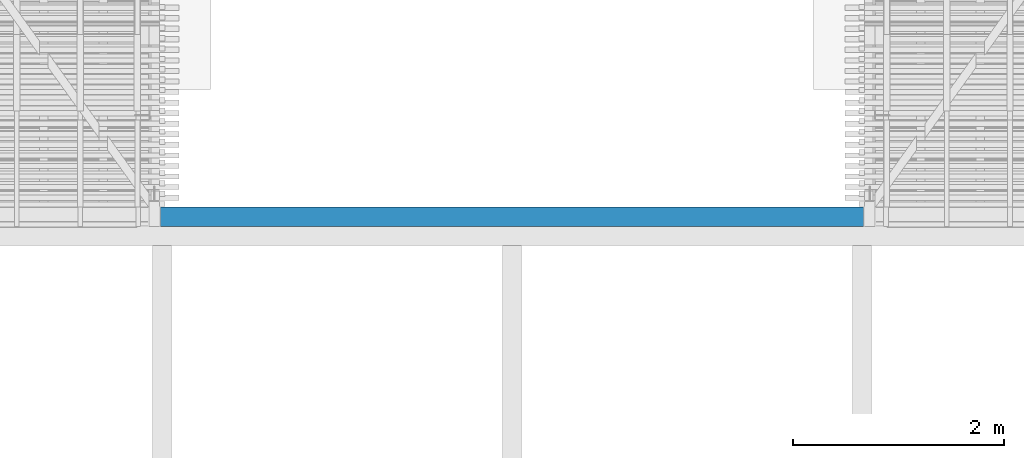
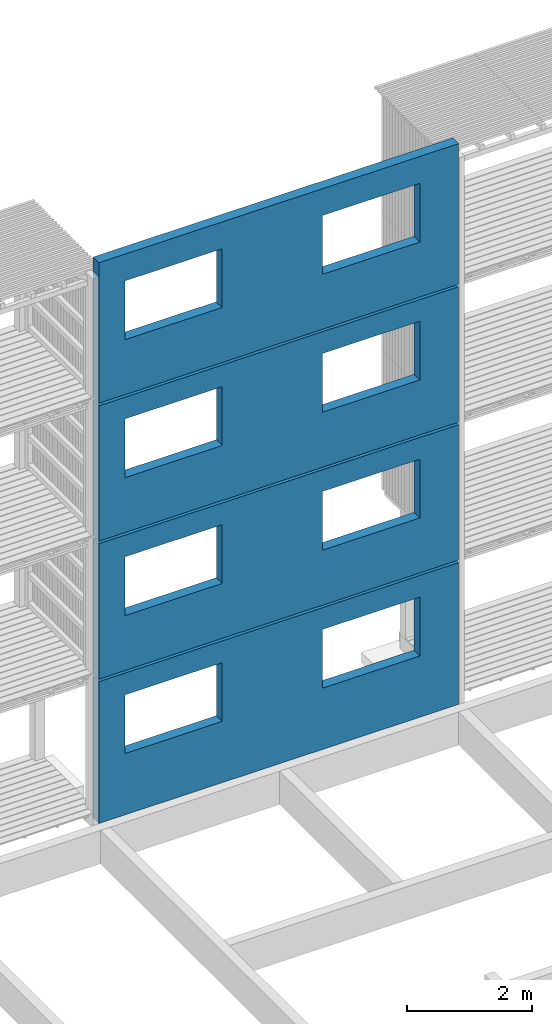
# One storey, part 182 of 182: 4 walls, 8 openings.
"""IFC2X3 building model written with IfcOpenShell, lengths in metres."""

from ifc_helpers import new_model, si_unit, frame, origin, place, context, project, spatial, faceted_brep, element, save


model = new_model("IFC2X3")

# Units and contexts
model_context = context("Model", 3, precision=1e-06, world=origin())
ifc_project = project(units=[si_unit("LENGTHUNIT", "METRE"), si_unit("PLANEANGLEUNIT", "RADIAN")], contexts=[model_context])

# Site, building, storey
site = spatial("IfcSite", under=ifc_project, CompositionType="ELEMENT")
building = spatial("IfcBuilding", under=site, CompositionType="ELEMENT")
storey = spatial("IfcBuildingStorey", under=building, Name="vs", CompositionType="ELEMENT", Elevation=-0.85)

# Wall, openings
placement = place(None, origin())
wall_1_placement = place(placement, frame((53.01459868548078, 5.057077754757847, -0.2), z_axis=(0.0, 0.0, 1.0), x_axis=(-1.0, 0.0, 0.0)))
wall_1 = element("IfcWall", 1, at=wall_1_placement, inside=storey, context=model_context, shape_type="Brep", body=[
    faceted_brep([(0.0, 0.0, 2.775), (0.0, 0.187, 2.775), (0.0, 0.187, 0.0), (0.0, 0.0, 0.0), (0.0, 0.187, 2.775), (6.659598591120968, 0.187, 2.775), (6.659598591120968, 0.187, 0.0), (0.0, 0.187, 0.0), (6.659598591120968, 0.187, 2.775), (6.659598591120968, 0.0, 2.775), (6.659598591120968, 0.0, 0.0), (6.659598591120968, 0.187, 0.0), (6.659598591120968, 0.0, 2.775), (0.0, 0.0, 2.775), (0.0, 0.0, 0.0), (6.659598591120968, 0.0, 0.0), (0.0, 0.0, 2.775), (6.659598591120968, 0.0, 2.775), (6.659598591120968, 0.187, 2.775), (0.0, 0.187, 2.775), (0.0, 0.0, 0.0), (0.0, 0.187, 0.0), (6.659598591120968, 0.187, 0.0), (6.659598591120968, 0.0, 0.0)], [[[0, 1, 2, 3]], [[4, 5, 6, 7]], [[8, 9, 10, 11]], [[12, 13, 14, 15]], [[16, 17, 18, 19]], [[20, 21, 22, 23]]]),
])
opening_1_placement = place(placement, frame((48.634598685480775, 5.057077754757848, 1.0), z_axis=(0.0, 0.0, 1.0), x_axis=(-1.0, 0.0, 0.0)))
element("IfcOpeningElement", 2, at=opening_1_placement, cuts=wall_1, Name="Opening", context=model_context, shape_type="Brep", body=[
    faceted_brep([(0.0, 0.186999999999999, 0.0), (1.8, 0.186999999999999, 0.0), (1.8, 0.0, 0.0), (0.0, 0.0, 0.0), (1.8, 0.0, 1.15), (1.8, 0.186999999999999, 1.15), (0.0, 0.186999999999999, 1.15), (0.0, 0.0, 1.15), (0.0, 0.186999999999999, 0.0), (0.0, 0.0, 0.0), (0.0, 0.0, 1.15), (0.0, 0.186999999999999, 1.15), (1.8, 0.186999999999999, 0.0), (0.0, 0.186999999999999, 0.0), (0.0, 0.186999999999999, 1.15), (1.8, 0.186999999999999, 1.15), (1.8, 0.0, 0.0), (1.8, 0.186999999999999, 0.0), (1.8, 0.186999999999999, 1.15), (1.8, 0.0, 1.15), (0.0, 0.0, 0.0), (1.8, 0.0, 0.0), (1.8, 0.0, 1.15), (0.0, 0.0, 1.15)], [[[0, 1, 2, 3]], [[4, 5, 6, 7]], [[8, 9, 10, 11]], [[12, 13, 14, 15]], [[16, 17, 18, 19]], [[20, 21, 22, 23]]]),
])
opening_2_placement = place(placement, frame((52.29459868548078, 5.057077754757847, 1.0), z_axis=(0.0, 0.0, 1.0), x_axis=(-1.0, 0.0, 0.0)))
element("IfcOpeningElement", 3, at=opening_2_placement, cuts=wall_1, Name="Opening", context=model_context, shape_type="Brep", body=[
    faceted_brep([(0.0, 0.187, 0.0), (1.8, 0.187, 0.0), (1.8, 0.0, 0.0), (0.0, 0.0, 0.0), (1.8, 0.0, 1.15), (1.8, 0.187, 1.15), (0.0, 0.187, 1.15), (0.0, 0.0, 1.15), (0.0, 0.187, 0.0), (0.0, 0.0, 0.0), (0.0, 0.0, 1.15), (0.0, 0.187, 1.15), (1.8, 0.187, 0.0), (0.0, 0.187, 0.0), (0.0, 0.187, 1.15), (1.8, 0.187, 1.15), (1.8, 0.0, 0.0), (1.8, 0.187, 0.0), (1.8, 0.187, 1.15), (1.8, 0.0, 1.15), (0.0, 0.0, 0.0), (1.8, 0.0, 0.0), (1.8, 0.0, 1.15), (0.0, 0.0, 1.15)], [[[0, 1, 2, 3]], [[4, 5, 6, 7]], [[8, 9, 10, 11]], [[12, 13, 14, 15]], [[16, 17, 18, 19]], [[20, 21, 22, 23]]]),
])

wall_2_placement = place(placement, frame((53.01459868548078, 5.057077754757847, 2.625), z_axis=(0.0, 0.0, 1.0), x_axis=(-1.0, 0.0, 0.0)))
wall_2 = element("IfcWall", 4, at=wall_2_placement, inside=storey, context=model_context, shape_type="Brep", body=[
    faceted_brep([(0.0, 0.0, 2.65), (0.0, 0.187, 2.65), (0.0, 0.187, 0.0), (0.0, 0.0, 0.0), (0.0, 0.187, 2.65), (6.659598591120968, 0.187, 2.65), (6.659598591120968, 0.187, 0.0), (0.0, 0.187, 0.0), (6.659598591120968, 0.187, 2.65), (6.659598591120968, 0.0, 2.65), (6.659598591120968, 0.0, 0.0), (6.659598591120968, 0.187, 0.0), (6.659598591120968, 0.0, 2.65), (0.0, 0.0, 2.65), (0.0, 0.0, 0.0), (6.659598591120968, 0.0, 0.0), (0.0, 0.0, 2.65), (6.659598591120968, 0.0, 2.65), (6.659598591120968, 0.187, 2.65), (0.0, 0.187, 2.65), (0.0, 0.0, 0.0), (0.0, 0.187, 0.0), (6.659598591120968, 0.187, 0.0), (6.659598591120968, 0.0, 0.0)], [[[0, 1, 2, 3]], [[4, 5, 6, 7]], [[8, 9, 10, 11]], [[12, 13, 14, 15]], [[16, 17, 18, 19]], [[20, 21, 22, 23]]]),
])
opening_3_placement = place(placement, frame((52.29459868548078, 5.057077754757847, 3.7), z_axis=(0.0, 0.0, 1.0), x_axis=(-1.0, 0.0, 0.0)))
element("IfcOpeningElement", 5, at=opening_3_placement, cuts=wall_2, Name="Opening", context=model_context, shape_type="Brep", body=[
    faceted_brep([(0.0, 0.187, 0.0), (1.8, 0.187, 0.0), (1.8, 0.0, 0.0), (0.0, 0.0, 0.0), (1.8, 0.0, 1.15), (1.8, 0.187, 1.15), (0.0, 0.187, 1.15), (0.0, 0.0, 1.15), (0.0, 0.187, 0.0), (0.0, 0.0, 0.0), (0.0, 0.0, 1.15), (0.0, 0.187, 1.15), (1.8, 0.187, 0.0), (0.0, 0.187, 0.0), (0.0, 0.187, 1.15), (1.8, 0.187, 1.15), (1.8, 0.0, 0.0), (1.8, 0.187, 0.0), (1.8, 0.187, 1.15), (1.8, 0.0, 1.15), (0.0, 0.0, 0.0), (1.8, 0.0, 0.0), (1.8, 0.0, 1.15), (0.0, 0.0, 1.15)], [[[0, 1, 2, 3]], [[4, 5, 6, 7]], [[8, 9, 10, 11]], [[12, 13, 14, 15]], [[16, 17, 18, 19]], [[20, 21, 22, 23]]]),
])
opening_4_placement = place(placement, frame((48.634598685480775, 5.057077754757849, 3.7), z_axis=(0.0, 0.0, 1.0), x_axis=(-1.0, 0.0, 0.0)))
element("IfcOpeningElement", 6, at=opening_4_placement, cuts=wall_2, Name="Opening", context=model_context, shape_type="Brep", body=[
    faceted_brep([(0.0, 0.186999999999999, 0.0), (1.8, 0.186999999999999, 0.0), (1.8, 0.0, 0.0), (0.0, 0.0, 0.0), (1.8, 0.0, 1.15), (1.8, 0.186999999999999, 1.15), (0.0, 0.186999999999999, 1.15), (0.0, 0.0, 1.15), (0.0, 0.186999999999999, 0.0), (0.0, 0.0, 0.0), (0.0, 0.0, 1.15), (0.0, 0.186999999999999, 1.15), (1.8, 0.186999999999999, 0.0), (0.0, 0.186999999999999, 0.0), (0.0, 0.186999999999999, 1.15), (1.8, 0.186999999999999, 1.15), (1.8, 0.0, 0.0), (1.8, 0.186999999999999, 0.0), (1.8, 0.186999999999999, 1.15), (1.8, 0.0, 1.15), (0.0, 0.0, 0.0), (1.8, 0.0, 0.0), (1.8, 0.0, 1.15), (0.0, 0.0, 1.15)], [[[0, 1, 2, 3]], [[4, 5, 6, 7]], [[8, 9, 10, 11]], [[12, 13, 14, 15]], [[16, 17, 18, 19]], [[20, 21, 22, 23]]]),
])

wall_3_placement = place(placement, frame((53.01459868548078, 5.057077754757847, 5.325000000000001), z_axis=(0.0, 0.0, 1.0), x_axis=(-1.0, 0.0, 0.0)))
wall_3 = element("IfcWall", 7, at=wall_3_placement, inside=storey, context=model_context, shape_type="Brep", body=[
    faceted_brep([(0.0, 0.0, 2.65), (0.0, 0.187, 2.65), (0.0, 0.187, 0.0), (0.0, 0.0, 0.0), (0.0, 0.187, 2.65), (6.659598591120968, 0.187, 2.65), (6.659598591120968, 0.187, 0.0), (0.0, 0.187, 0.0), (6.659598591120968, 0.187, 2.65), (6.659598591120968, 0.0, 2.65), (6.659598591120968, 0.0, 0.0), (6.659598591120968, 0.187, 0.0), (6.659598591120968, 0.0, 2.65), (0.0, 0.0, 2.65), (0.0, 0.0, 0.0), (6.659598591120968, 0.0, 0.0), (0.0, 0.0, 2.65), (6.659598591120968, 0.0, 2.65), (6.659598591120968, 0.187, 2.65), (0.0, 0.187, 2.65), (0.0, 0.0, 0.0), (0.0, 0.187, 0.0), (6.659598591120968, 0.187, 0.0), (6.659598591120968, 0.0, 0.0)], [[[0, 1, 2, 3]], [[4, 5, 6, 7]], [[8, 9, 10, 11]], [[12, 13, 14, 15]], [[16, 17, 18, 19]], [[20, 21, 22, 23]]]),
])
opening_5_placement = place(placement, frame((48.634598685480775, 5.05707775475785, 6.4), z_axis=(0.0, 0.0, 1.0), x_axis=(-1.0, 0.0, 0.0)))
element("IfcOpeningElement", 8, at=opening_5_placement, cuts=wall_3, Name="Opening", context=model_context, shape_type="Brep", body=[
    faceted_brep([(0.0, 0.186999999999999, 0.0), (1.8, 0.186999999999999, 0.0), (1.8, 0.0, 0.0), (0.0, 0.0, 0.0), (1.8, 0.0, 1.15), (1.8, 0.186999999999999, 1.15), (0.0, 0.186999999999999, 1.15), (0.0, 0.0, 1.15), (0.0, 0.186999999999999, 0.0), (0.0, 0.0, 0.0), (0.0, 0.0, 1.15), (0.0, 0.186999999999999, 1.15), (1.8, 0.186999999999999, 0.0), (0.0, 0.186999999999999, 0.0), (0.0, 0.186999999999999, 1.15), (1.8, 0.186999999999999, 1.15), (1.8, 0.0, 0.0), (1.8, 0.186999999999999, 0.0), (1.8, 0.186999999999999, 1.15), (1.8, 0.0, 1.15), (0.0, 0.0, 0.0), (1.8, 0.0, 0.0), (1.8, 0.0, 1.15), (0.0, 0.0, 1.15)], [[[0, 1, 2, 3]], [[4, 5, 6, 7]], [[8, 9, 10, 11]], [[12, 13, 14, 15]], [[16, 17, 18, 19]], [[20, 21, 22, 23]]]),
])
opening_6_placement = place(placement, frame((52.29459868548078, 5.057077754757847, 6.4), z_axis=(0.0, 0.0, 1.0), x_axis=(-1.0, 0.0, 0.0)))
element("IfcOpeningElement", 9, at=opening_6_placement, cuts=wall_3, Name="Opening", context=model_context, shape_type="Brep", body=[
    faceted_brep([(0.0, 0.187, 0.0), (1.8, 0.187, 0.0), (1.8, 0.0, 0.0), (0.0, 0.0, 0.0), (1.8, 0.0, 1.15), (1.8, 0.187, 1.15), (0.0, 0.187, 1.15), (0.0, 0.0, 1.15), (0.0, 0.187, 0.0), (0.0, 0.0, 0.0), (0.0, 0.0, 1.15), (0.0, 0.187, 1.15), (1.8, 0.187, 0.0), (0.0, 0.187, 0.0), (0.0, 0.187, 1.15), (1.8, 0.187, 1.15), (1.8, 0.0, 0.0), (1.8, 0.187, 0.0), (1.8, 0.187, 1.15), (1.8, 0.0, 1.15), (0.0, 0.0, 0.0), (1.8, 0.0, 0.0), (1.8, 0.0, 1.15), (0.0, 0.0, 1.15)], [[[0, 1, 2, 3]], [[4, 5, 6, 7]], [[8, 9, 10, 11]], [[12, 13, 14, 15]], [[16, 17, 18, 19]], [[20, 21, 22, 23]]]),
])

wall_4_placement = place(placement, frame((53.01459868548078, 5.057077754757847, 8.025000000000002), z_axis=(0.0, 0.0, 1.0), x_axis=(-1.0, 0.0, 0.0)))
wall_4 = element("IfcWall", 10, at=wall_4_placement, inside=storey, context=model_context, shape_type="Brep", body=[
    faceted_brep([(0.0, 0.0, 2.749999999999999), (0.0, 0.187, 2.749999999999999), (0.0, 0.187, 0.0), (0.0, 0.0, 0.0), (0.0, 0.187, 2.749999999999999), (6.659598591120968, 0.187, 2.749999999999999), (6.659598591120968, 0.187, 0.0), (0.0, 0.187, 0.0), (6.659598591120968, 0.187, 2.749999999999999), (6.659598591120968, 0.0, 2.749999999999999), (6.659598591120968, 0.0, 0.0), (6.659598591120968, 0.187, 0.0), (6.659598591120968, 0.0, 2.749999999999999), (0.0, 0.0, 2.749999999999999), (0.0, 0.0, 0.0), (6.659598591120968, 0.0, 0.0), (0.0, 0.0, 2.749999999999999), (6.659598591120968, 0.0, 2.749999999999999), (6.659598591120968, 0.187, 2.749999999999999), (0.0, 0.187, 2.749999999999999), (0.0, 0.0, 0.0), (0.0, 0.187, 0.0), (6.659598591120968, 0.187, 0.0), (6.659598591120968, 0.0, 0.0)], [[[0, 1, 2, 3]], [[4, 5, 6, 7]], [[8, 9, 10, 11]], [[12, 13, 14, 15]], [[16, 17, 18, 19]], [[20, 21, 22, 23]]]),
])
opening_7_placement = place(placement, frame((48.634598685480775, 5.057077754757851, 9.100000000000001), z_axis=(0.0, 0.0, 1.0), x_axis=(-1.0, 0.0, 0.0)))
element("IfcOpeningElement", 11, at=opening_7_placement, cuts=wall_4, Name="Opening", context=model_context, shape_type="Brep", body=[
    faceted_brep([(0.0, 0.186999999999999, 0.0), (1.8, 0.186999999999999, 0.0), (1.8, 0.0, 0.0), (0.0, 0.0, 0.0), (1.8, 0.0, 1.15), (1.8, 0.186999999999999, 1.15), (0.0, 0.186999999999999, 1.15), (0.0, 0.0, 1.15), (0.0, 0.186999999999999, 0.0), (0.0, 0.0, 0.0), (0.0, 0.0, 1.15), (0.0, 0.186999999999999, 1.15), (1.8, 0.186999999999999, 0.0), (0.0, 0.186999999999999, 0.0), (0.0, 0.186999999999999, 1.15), (1.8, 0.186999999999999, 1.15), (1.8, 0.0, 0.0), (1.8, 0.186999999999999, 0.0), (1.8, 0.186999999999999, 1.15), (1.8, 0.0, 1.15), (0.0, 0.0, 0.0), (1.8, 0.0, 0.0), (1.8, 0.0, 1.15), (0.0, 0.0, 1.15)], [[[0, 1, 2, 3]], [[4, 5, 6, 7]], [[8, 9, 10, 11]], [[12, 13, 14, 15]], [[16, 17, 18, 19]], [[20, 21, 22, 23]]]),
])
opening_8_placement = place(placement, frame((52.29459868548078, 5.057077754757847, 9.100000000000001), z_axis=(0.0, 0.0, 1.0), x_axis=(-1.0, 0.0, 0.0)))
element("IfcOpeningElement", 12, at=opening_8_placement, cuts=wall_4, Name="Opening", context=model_context, shape_type="Brep", body=[
    faceted_brep([(0.0, 0.187, 0.0), (1.8, 0.187, 0.0), (1.8, 0.0, 0.0), (0.0, 0.0, 0.0), (1.8, 0.0, 1.15), (1.8, 0.187, 1.15), (0.0, 0.187, 1.15), (0.0, 0.0, 1.15), (0.0, 0.187, 0.0), (0.0, 0.0, 0.0), (0.0, 0.0, 1.15), (0.0, 0.187, 1.15), (1.8, 0.187, 0.0), (0.0, 0.187, 0.0), (0.0, 0.187, 1.15), (1.8, 0.187, 1.15), (1.8, 0.0, 0.0), (1.8, 0.187, 0.0), (1.8, 0.187, 1.15), (1.8, 0.0, 1.15), (0.0, 0.0, 0.0), (1.8, 0.0, 0.0), (1.8, 0.0, 1.15), (0.0, 0.0, 1.15)], [[[0, 1, 2, 3]], [[4, 5, 6, 7]], [[8, 9, 10, 11]], [[12, 13, 14, 15]], [[16, 17, 18, 19]], [[20, 21, 22, 23]]]),
])

save(model, "model.ifc")
